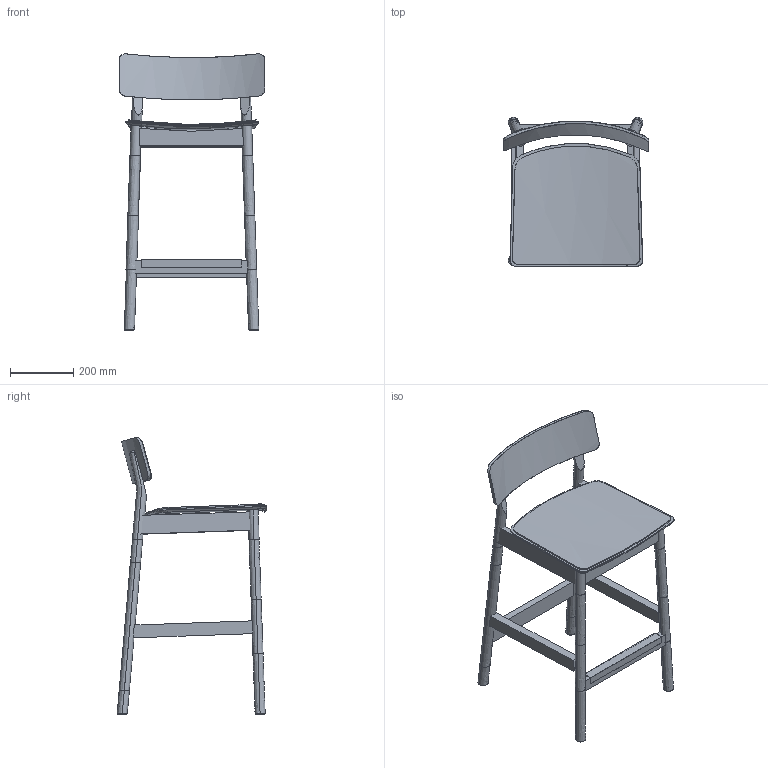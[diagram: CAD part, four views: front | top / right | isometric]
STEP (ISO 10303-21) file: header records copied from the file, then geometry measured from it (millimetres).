
FILE_DESCRIPTION(/* description */ (''),/* implementation_level */ '2;1');
FILE_NAME(/* name */ 'Pause counter chair',/* time_stamp */ '2019-09-17T13:13:24+02:00',/* author */ (''),/* organization */ (''),/* preprocessor_version */ 'ST-DEVELOPER v15',/* originating_system */ '',/* authorisation */ '');
FILE_SCHEMA (('AUTOMOTIVE_DESIGN'));
Length unit declared in the file: millimetre
Products named in the file (1): Document
Bounding box: 459.7 x 472.05 x 871.78 mm (x, y, z)
Surface area: 1353042.1 mm2 (no closed solid volume)
Topology: 0 solids, 175 shells, 176 faces, 751 edges, 749 vertices
Faces by surface type: bspline 119, plane 57
Entity records: 19000 total; most frequent: CARTESIAN_POINT 13363, ORIENTED_EDGE 753, EDGE_CURVE 751, VERTEX_POINT 749, B_SPLINE_CURVE_WITH_KNOTS 655, EDGE_LOOP 179, ADVANCED_FACE 176, FACE_OUTER_BOUND 176
